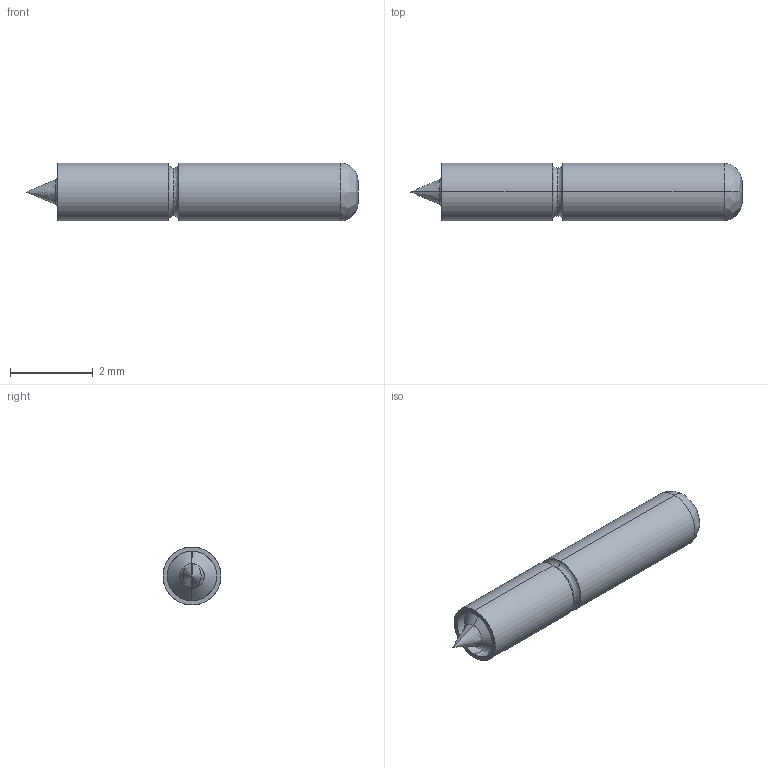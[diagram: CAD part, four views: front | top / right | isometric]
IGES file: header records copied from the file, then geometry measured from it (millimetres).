
Start section: SolidWorks IGES file using analytic representation for surfaces
Global section: file name: Z:\probe solid model mockups\Solidworks models\IGES Files\HPA-64\HPA-64-9 Full.IGS; native system: SolidWorks 2006 by SolidWorks Corporation; preprocessor: SolidWorks 2006 by SolidWorks Corporation; author: tsakatani; date: 071220.100501; units: inch
Bounding box: 8 x 1.4 x 1.4 mm (x, y, z)
Surface area: 36.1 mm2 (no closed solid volume)
Topology: 0 solids, 0 shells, 18 faces, 112 edges, 110 vertices
Faces by surface type: revolution 10, bspline 8
